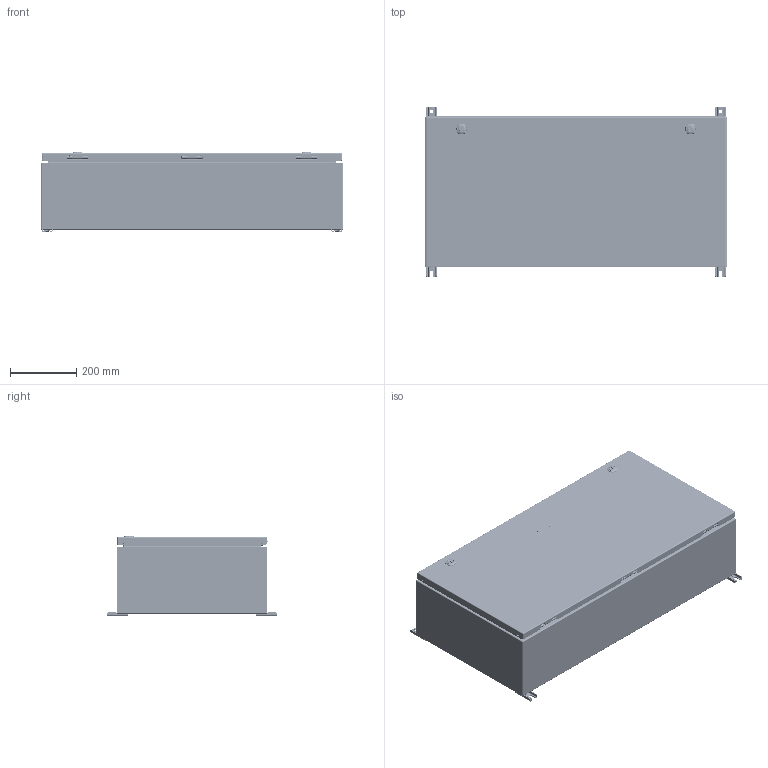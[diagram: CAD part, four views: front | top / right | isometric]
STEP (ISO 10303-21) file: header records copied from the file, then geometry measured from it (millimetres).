
FILE_DESCRIPTION(/* description */ ('1412BTSSCU 400A - 3 Wires x 36" Assembly'),/* implementation_level */ '2;1');
FILE_NAME(/* name */ 'C:\Vault_Workspace\Inventor_Dwg\BoxCad\Result\1412BTSSCU03403\e-mail\3D\1412BTSSCU03403.stp',/* time_stamp */ '2022-09-02T08:26:00-04:00',/* author */ ('BoxCad'),/* organization */ (''),/* preprocessor_version */ 'ST-DEVELOPER v18.1',/* originating_system */ 'Autodesk Inventor 2020',/* authorisation */ '');
FILE_SCHEMA (('AUTOMOTIVE_DESIGN { 1 0 10303 214 3 1 1 }'));
Products named in the file (49): 1412BTSSCU03403; 1412BTSSCU03403B; 1412BTSSCU03403B-P; STK-Q-16020; 1412BTSSCU03403C; 1412BTSSCU03403C-P; 1412BTSSCU03403G; STK-Q-16095; STK-K-09850-1; STK-Q-33019; STK-Q-90111; STK-Q-40096; STK-Q-63412; STK-S-00100; STK-A-880SCQ4-SLSS6-1; STK-A-880SCQ4-SLSS6-2; STK-Q-70621; STK-Q-70631; STK-Q-78145; STK-Q-03200; STK-Q-78125; STK-Q-90390; STK-Q-78160; STK-Q-78141; 1412BTSSCU03403IP1; 1412BTSSCU03403IP1-P; STK-P-02401S; STK-Q-07610; STK-A-67400; STK-Q-67400; STK-G-22300; STK-Q-67420; STK-Q-40800; STK-Q-67430; STK-Q-07310; 1412BTSSCU03403BAR1-P; 1412BTSSCU03403BAR2-P; 1412BTSSCU03403BAR3-P; 1412BTSSCU03403MF; 885ESMF2-FEET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
Assembly tree (96 placements, depth 4):
  1412BTSSCU03403
    1412BTSSCU03403B
      1412BTSSCU03403B-P
      STK-Q-16095
      STK-Q-16020  x6
      STK-S-00100
    1412BTSSCU03403C
      1412BTSSCU03403C-P
      1412BTSSCU03403G
      STK-Q-16095
      STK-K-09850-1  x3
        STK-Q-33019
        STK-Q-90111
        STK-Q-40096
        STK-Q-63412
      STK-S-00100
      STK-A-880SCQ4-SLSS6-1
        STK-Q-70621
        STK-Q-70631
        STK-Q-78145
        STK-Q-03200
        STK-Q-78125
        STK-Q-90390
        STK-Q-78160
        STK-Q-78141
      STK-A-880SCQ4-SLSS6-2
        STK-Q-70621
        STK-Q-70631
        STK-Q-78145
        STK-Q-03200
        STK-Q-78125
        STK-Q-90390
        STK-Q-78160
        STK-Q-78141
    1412BTSSCU03403IP1
      1412BTSSCU03403IP1-P
      STK-P-02401S
    STK-Q-07610  x4
    STK-Q-07310  x10
    STK-A-67400  x6
      STK-Q-67400
      STK-G-22300
      STK-Q-67420
      STK-Q-40800
      STK-Q-67430
    1412BTSSCU03403BAR1-P
    1412BTSSCU03403BAR2-P
    1412BTSSCU03403BAR3-P
    1412BTSSCU03403MF
      885ESMF2-FEET  x2
      885ESMF2-FEET-A  x2
      STK-Q-00295  x4
      STK-Q-07420  x4
        STK-Q-07420-A
        STK-Q-07420-B
    STK-A-01800
    STK-Q-04051-07-1(1)  x3
      STK-Q-04051-07-P
      STK-Q-04051-N
Bounding box: 914.4 x 514.35 x 243.4 mm (x, y, z)
Volume: 4301110 mm3; surface area: 4222180.7 mm2
Topology: 129 solids, 129 shells, 18229 faces, 48249 edges, 30273 vertices
Faces by surface type: plane 6371, bspline 5378, cylinder 4687, torus 1224, sphere 380, cone 189
Full cylindrical faces by diameter (mm): 0.75 x8, 0.762 x8, 1 x12, 1.1 x12, 3.2 x6, 4.5 x24, 4.85 x24, 4.917 x3, 4.95 x6, 5.1 x22, 5.9 x64, 6.65 x6, 6.655 x6, 6.85 x40, 7.366 x7, 7.8 x246, 8 x20, 8.25 x12, 8.6 x12, 9.6 x2, 9.7 x48, 9.906 x4, 10 x5, 10.312 x2, 11.5 x12, 12 x9, 12.8 x2, 13 x2, 14 x8, 14.275 x6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
Entity records: 198838 total; most frequent: CARTESIAN_POINT 81629, ORIENTED_EDGE 26458, DIRECTION 20060, EDGE_CURVE 13229, VERTEX_POINT 8433, AXIS2_PLACEMENT_3D 6863, LINE 6334, VECTOR 6334
